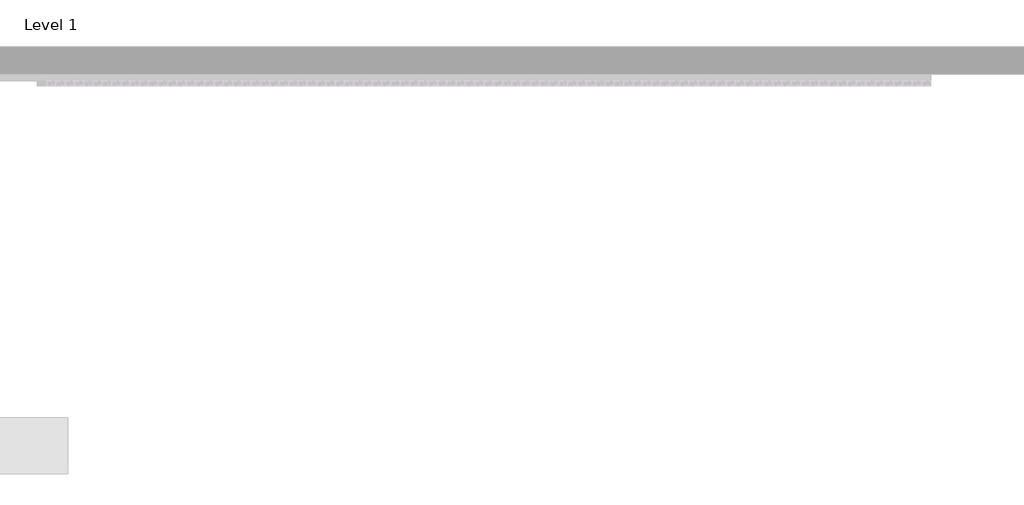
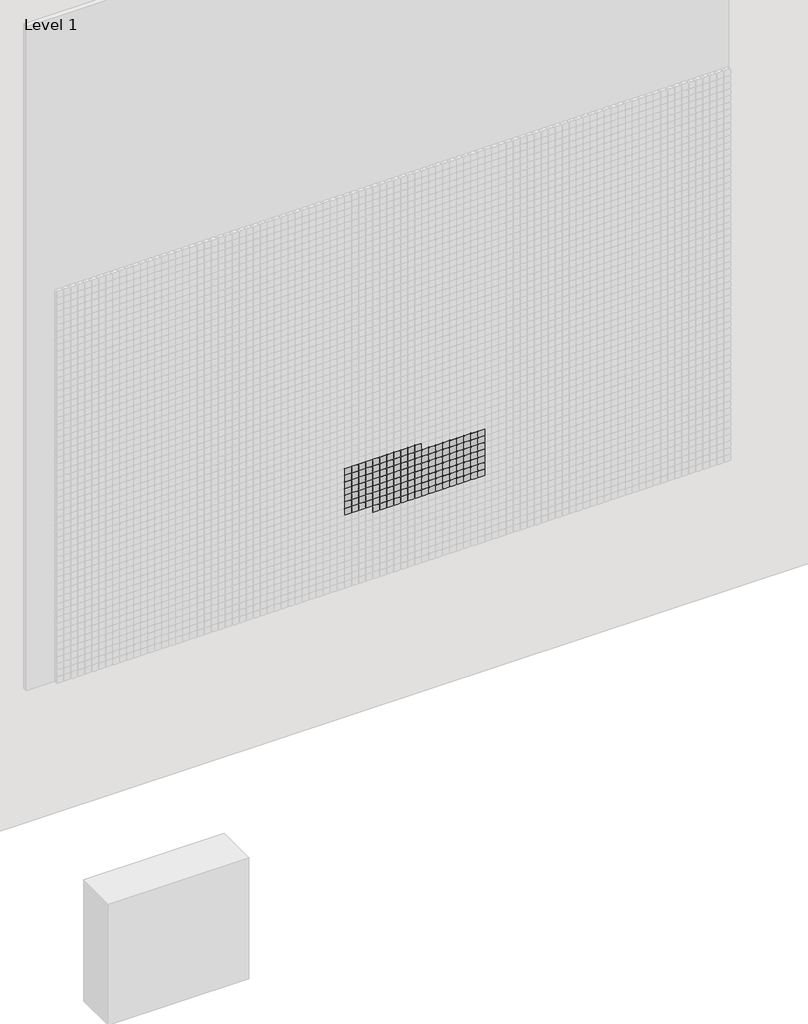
# One storey, part 46 of 71: 147 proxies.
"""IFC4 building model written with IfcOpenShell, lengths in millimetres."""

from ifc_helpers import new_model, si_unit, origin, place, context, project, spatial, transform, mapped, element, save
from components import generic_models_afde289c

model = new_model("IFC4")

# Units and contexts
model_context = context("Model", 3, world=origin())
ifc_project = project(units=[si_unit("LENGTHUNIT", "METRE", prefix="MILLI")], contexts=[model_context])

# Site, building, storey
site = spatial("IfcSite", under=ifc_project)
building = spatial("IfcBuilding", under=site)
storey = spatial("IfcBuildingStorey", under=building, Name="Level 1", Elevation=0.0)

# Proxies
placement = place(None, origin())
generic_models_shape = generic_models_afde289c(model_context)
element("IfcBuildingElementProxy", 1, Name="Pixel_M : Pixel_M", ObjectType="Pixel_M : Pixel_M", at=placement, inside=storey, context=model_context, shape_type="MappedRepresentation", body=[
    mapped(generic_models_shape, transform((7512.4280941, -75.0, 1866.3566215), x_axis=(1.0, 0.0, 0.0), y_axis=(0.0, 0.0, 1.0), z_axis=(0.0, -1.0, 0.0))),
])
element("IfcBuildingElementProxy", 2, Name="Pixel_M : Pixel_M", ObjectType="Pixel_M : Pixel_M", at=placement, inside=storey, context=model_context, shape_type="MappedRepresentation", body=[
    mapped(generic_models_shape, transform((7462.4280941, -75.0, 1866.3566215), x_axis=(1.0, 0.0, 0.0), y_axis=(0.0, 0.0, 1.0), z_axis=(0.0, -1.0, 0.0))),
])
element("IfcBuildingElementProxy", 3, Name="Pixel_M : Pixel_M", ObjectType="Pixel_M : Pixel_M", at=placement, inside=storey, context=model_context, shape_type="MappedRepresentation", body=[
    mapped(generic_models_shape, transform((7412.4280941, -75.0, 1866.3566215), x_axis=(1.0, 0.0, 0.0), y_axis=(0.0, 0.0, 1.0), z_axis=(0.0, -1.0, 0.0))),
])
element("IfcBuildingElementProxy", 4, Name="Pixel_M : Pixel_M", ObjectType="Pixel_M : Pixel_M", at=placement, inside=storey, context=model_context, shape_type="MappedRepresentation", body=[
    mapped(generic_models_shape, transform((7362.4280941, -75.0, 1866.3566215), x_axis=(1.0, 0.0, 0.0), y_axis=(0.0, 0.0, 1.0), z_axis=(0.0, -1.0, 0.0))),
])
element("IfcBuildingElementProxy", 5, Name="Pixel_M : Pixel_M", ObjectType="Pixel_M : Pixel_M", at=placement, inside=storey, context=model_context, shape_type="MappedRepresentation", body=[
    mapped(generic_models_shape, transform((7312.4280941, -75.0, 1866.3566215), x_axis=(1.0, 0.0, 0.0), y_axis=(0.0, 0.0, 1.0), z_axis=(0.0, -1.0, 0.0))),
])
element("IfcBuildingElementProxy", 6, Name="Pixel_M : Pixel_M", ObjectType="Pixel_M : Pixel_M", at=placement, inside=storey, context=model_context, shape_type="MappedRepresentation", body=[
    mapped(generic_models_shape, transform((7262.4280941, -75.0, 1866.3566215), x_axis=(1.0, 0.0, 0.0), y_axis=(0.0, 0.0, 1.0), z_axis=(0.0, -1.0, 0.0))),
])
element("IfcBuildingElementProxy", 7, Name="Pixel_M : Pixel_M", ObjectType="Pixel_M : Pixel_M", at=placement, inside=storey, context=model_context, shape_type="MappedRepresentation", body=[
    mapped(generic_models_shape, transform((7212.4280941, -75.0, 1866.3566215), x_axis=(1.0, 0.0, 0.0), y_axis=(0.0, 0.0, 1.0), z_axis=(0.0, -1.0, 0.0))),
])
element("IfcBuildingElementProxy", 8, Name="Pixel_M : Pixel_M", ObjectType="Pixel_M : Pixel_M", at=placement, inside=storey, context=model_context, shape_type="MappedRepresentation", body=[
    mapped(generic_models_shape, transform((7162.4280941, -75.0, 1866.3566215), x_axis=(1.0, 0.0, 0.0), y_axis=(0.0, 0.0, 1.0), z_axis=(0.0, -1.0, 0.0))),
])
element("IfcBuildingElementProxy", 9, Name="Pixel_M : Pixel_M", ObjectType="Pixel_M : Pixel_M", at=placement, inside=storey, context=model_context, shape_type="MappedRepresentation", body=[
    mapped(generic_models_shape, transform((7112.4280941, -75.0, 1866.3566215), x_axis=(1.0, 0.0, 0.0), y_axis=(0.0, 0.0, 1.0), z_axis=(0.0, -1.0, 0.0))),
])
element("IfcBuildingElementProxy", 10, Name="Pixel_M : Pixel_M", ObjectType="Pixel_M : Pixel_M", at=placement, inside=storey, context=model_context, shape_type="MappedRepresentation", body=[
    mapped(generic_models_shape, transform((7062.4280941, -75.0, 1866.3566215), x_axis=(1.0, 0.0, 0.0), y_axis=(0.0, 0.0, 1.0), z_axis=(0.0, -1.0, 0.0))),
])
element("IfcBuildingElementProxy", 11, Name="Pixel_M : Pixel_M", ObjectType="Pixel_M : Pixel_M", at=placement, inside=storey, context=model_context, shape_type="MappedRepresentation", body=[
    mapped(generic_models_shape, transform((7012.4280941, -75.0, 1866.3566215), x_axis=(1.0, 0.0, 0.0), y_axis=(0.0, 0.0, 1.0), z_axis=(0.0, -1.0, 0.0))),
])
element("IfcBuildingElementProxy", 12, Name="Pixel_M : Pixel_M", ObjectType="Pixel_M : Pixel_M", at=placement, inside=storey, context=model_context, shape_type="MappedRepresentation", body=[
    mapped(generic_models_shape, transform((7962.4280941, -75.0, 1816.3566215), x_axis=(1.0, 0.0, 0.0), y_axis=(0.0, 0.0, 1.0), z_axis=(0.0, -1.0, 0.0))),
])
element("IfcBuildingElementProxy", 13, Name="Pixel_M : Pixel_M", ObjectType="Pixel_M : Pixel_M", at=placement, inside=storey, context=model_context, shape_type="MappedRepresentation", body=[
    mapped(generic_models_shape, transform((7912.4280941, -75.0, 1816.3566215), x_axis=(1.0, 0.0, 0.0), y_axis=(0.0, 0.0, 1.0), z_axis=(0.0, -1.0, 0.0))),
])
element("IfcBuildingElementProxy", 14, Name="Pixel_M : Pixel_M", ObjectType="Pixel_M : Pixel_M", at=placement, inside=storey, context=model_context, shape_type="MappedRepresentation", body=[
    mapped(generic_models_shape, transform((7862.4280941, -75.0, 1816.3566215), x_axis=(1.0, 0.0, 0.0), y_axis=(0.0, 0.0, 1.0), z_axis=(0.0, -1.0, 0.0))),
])
element("IfcBuildingElementProxy", 15, Name="Pixel_M : Pixel_M", ObjectType="Pixel_M : Pixel_M", at=placement, inside=storey, context=model_context, shape_type="MappedRepresentation", body=[
    mapped(generic_models_shape, transform((7812.4280941, -75.0, 1816.3566215), x_axis=(1.0, 0.0, 0.0), y_axis=(0.0, 0.0, 1.0), z_axis=(0.0, -1.0, 0.0))),
])
element("IfcBuildingElementProxy", 16, Name="Pixel_M : Pixel_M", ObjectType="Pixel_M : Pixel_M", at=placement, inside=storey, context=model_context, shape_type="MappedRepresentation", body=[
    mapped(generic_models_shape, transform((7762.4280941, -75.0, 1816.3566215), x_axis=(1.0, 0.0, 0.0), y_axis=(0.0, 0.0, 1.0), z_axis=(0.0, -1.0, 0.0))),
])
element("IfcBuildingElementProxy", 17, Name="Pixel_M : Pixel_M", ObjectType="Pixel_M : Pixel_M", at=placement, inside=storey, context=model_context, shape_type="MappedRepresentation", body=[
    mapped(generic_models_shape, transform((7712.4280941, -75.0, 1816.3566215), x_axis=(1.0, 0.0, 0.0), y_axis=(0.0, 0.0, 1.0), z_axis=(0.0, -1.0, 0.0))),
])
element("IfcBuildingElementProxy", 18, Name="Pixel_M : Pixel_M", ObjectType="Pixel_M : Pixel_M", at=placement, inside=storey, context=model_context, shape_type="MappedRepresentation", body=[
    mapped(generic_models_shape, transform((7662.4280941, -75.0, 1816.3566215), x_axis=(1.0, 0.0, 0.0), y_axis=(0.0, 0.0, 1.0), z_axis=(0.0, -1.0, 0.0))),
])
element("IfcBuildingElementProxy", 19, Name="Pixel_M : Pixel_M", ObjectType="Pixel_M : Pixel_M", at=placement, inside=storey, context=model_context, shape_type="MappedRepresentation", body=[
    mapped(generic_models_shape, transform((7612.4280941, -75.0, 1816.3566215), x_axis=(1.0, 0.0, 0.0), y_axis=(0.0, 0.0, 1.0), z_axis=(0.0, -1.0, 0.0))),
])
element("IfcBuildingElementProxy", 20, Name="Pixel_M : Pixel_M", ObjectType="Pixel_M : Pixel_M", at=placement, inside=storey, context=model_context, shape_type="MappedRepresentation", body=[
    mapped(generic_models_shape, transform((7562.4280941, -75.0, 1816.3566215), x_axis=(1.0, 0.0, 0.0), y_axis=(0.0, 0.0, 1.0), z_axis=(0.0, -1.0, 0.0))),
])
element("IfcBuildingElementProxy", 21, Name="Pixel_M : Pixel_M", ObjectType="Pixel_M : Pixel_M", at=placement, inside=storey, context=model_context, shape_type="MappedRepresentation", body=[
    mapped(generic_models_shape, transform((7512.4280941, -75.0, 1816.3566215), x_axis=(1.0, 0.0, 0.0), y_axis=(0.0, 0.0, 1.0), z_axis=(0.0, -1.0, 0.0))),
])
element("IfcBuildingElementProxy", 22, Name="Pixel_M : Pixel_M", ObjectType="Pixel_M : Pixel_M", at=placement, inside=storey, context=model_context, shape_type="MappedRepresentation", body=[
    mapped(generic_models_shape, transform((7462.4280941, -75.0, 1816.3566215), x_axis=(1.0, 0.0, 0.0), y_axis=(0.0, 0.0, 1.0), z_axis=(0.0, -1.0, 0.0))),
])
element("IfcBuildingElementProxy", 23, Name="Pixel_M : Pixel_M", ObjectType="Pixel_M : Pixel_M", at=placement, inside=storey, context=model_context, shape_type="MappedRepresentation", body=[
    mapped(generic_models_shape, transform((7412.4280941, -75.0, 1816.3566215), x_axis=(1.0, 0.0, 0.0), y_axis=(0.0, 0.0, 1.0), z_axis=(0.0, -1.0, 0.0))),
])
element("IfcBuildingElementProxy", 24, Name="Pixel_M : Pixel_M", ObjectType="Pixel_M : Pixel_M", at=placement, inside=storey, context=model_context, shape_type="MappedRepresentation", body=[
    mapped(generic_models_shape, transform((7362.4280941, -75.0, 1816.3566215), x_axis=(1.0, 0.0, 0.0), y_axis=(0.0, 0.0, 1.0), z_axis=(0.0, -1.0, 0.0))),
])
element("IfcBuildingElementProxy", 25, Name="Pixel_M : Pixel_M", ObjectType="Pixel_M : Pixel_M", at=placement, inside=storey, context=model_context, shape_type="MappedRepresentation", body=[
    mapped(generic_models_shape, transform((7312.4280941, -75.0, 1816.3566215), x_axis=(1.0, 0.0, 0.0), y_axis=(0.0, 0.0, 1.0), z_axis=(0.0, -1.0, 0.0))),
])
element("IfcBuildingElementProxy", 26, Name="Pixel_M : Pixel_M", ObjectType="Pixel_M : Pixel_M", at=placement, inside=storey, context=model_context, shape_type="MappedRepresentation", body=[
    mapped(generic_models_shape, transform((7262.4280941, -75.0, 1816.3566215), x_axis=(1.0, 0.0, 0.0), y_axis=(0.0, 0.0, 1.0), z_axis=(0.0, -1.0, 0.0))),
])
element("IfcBuildingElementProxy", 27, Name="Pixel_M : Pixel_M", ObjectType="Pixel_M : Pixel_M", at=placement, inside=storey, context=model_context, shape_type="MappedRepresentation", body=[
    mapped(generic_models_shape, transform((7212.4280941, -75.0, 1816.3566215), x_axis=(1.0, 0.0, 0.0), y_axis=(0.0, 0.0, 1.0), z_axis=(0.0, -1.0, 0.0))),
])
element("IfcBuildingElementProxy", 28, Name="Pixel_M : Pixel_M", ObjectType="Pixel_M : Pixel_M", at=placement, inside=storey, context=model_context, shape_type="MappedRepresentation", body=[
    mapped(generic_models_shape, transform((7162.4280941, -75.0, 1816.3566215), x_axis=(1.0, 0.0, 0.0), y_axis=(0.0, 0.0, 1.0), z_axis=(0.0, -1.0, 0.0))),
])
element("IfcBuildingElementProxy", 29, Name="Pixel_M : Pixel_M", ObjectType="Pixel_M : Pixel_M", at=placement, inside=storey, context=model_context, shape_type="MappedRepresentation", body=[
    mapped(generic_models_shape, transform((7112.4280941, -75.0, 1816.3566215), x_axis=(1.0, 0.0, 0.0), y_axis=(0.0, 0.0, 1.0), z_axis=(0.0, -1.0, 0.0))),
])
element("IfcBuildingElementProxy", 30, Name="Pixel_M : Pixel_M", ObjectType="Pixel_M : Pixel_M", at=placement, inside=storey, context=model_context, shape_type="MappedRepresentation", body=[
    mapped(generic_models_shape, transform((7062.4280941, -75.0, 1816.3566215), x_axis=(1.0, 0.0, 0.0), y_axis=(0.0, 0.0, 1.0), z_axis=(0.0, -1.0, 0.0))),
])
element("IfcBuildingElementProxy", 31, Name="Pixel_M : Pixel_M", ObjectType="Pixel_M : Pixel_M", at=placement, inside=storey, context=model_context, shape_type="MappedRepresentation", body=[
    mapped(generic_models_shape, transform((7012.4280941, -75.0, 1816.3566215), x_axis=(1.0, 0.0, 0.0), y_axis=(0.0, 0.0, 1.0), z_axis=(0.0, -1.0, 0.0))),
])
element("IfcBuildingElementProxy", 32, Name="Pixel_M : Pixel_M", ObjectType="Pixel_M : Pixel_M", at=placement, inside=storey, context=model_context, shape_type="MappedRepresentation", body=[
    mapped(generic_models_shape, transform((7962.4280941, -75.0, 1766.3566215), x_axis=(1.0, 0.0, 0.0), y_axis=(0.0, 0.0, 1.0), z_axis=(0.0, -1.0, 0.0))),
])
element("IfcBuildingElementProxy", 33, Name="Pixel_M : Pixel_M", ObjectType="Pixel_M : Pixel_M", at=placement, inside=storey, context=model_context, shape_type="MappedRepresentation", body=[
    mapped(generic_models_shape, transform((7912.4280941, -75.0, 1766.3566215), x_axis=(1.0, 0.0, 0.0), y_axis=(0.0, 0.0, 1.0), z_axis=(0.0, -1.0, 0.0))),
])
element("IfcBuildingElementProxy", 34, Name="Pixel_M : Pixel_M", ObjectType="Pixel_M : Pixel_M", at=placement, inside=storey, context=model_context, shape_type="MappedRepresentation", body=[
    mapped(generic_models_shape, transform((7862.4280941, -75.0, 1766.3566215), x_axis=(1.0, 0.0, 0.0), y_axis=(0.0, 0.0, 1.0), z_axis=(0.0, -1.0, 0.0))),
])
element("IfcBuildingElementProxy", 35, Name="Pixel_M : Pixel_M", ObjectType="Pixel_M : Pixel_M", at=placement, inside=storey, context=model_context, shape_type="MappedRepresentation", body=[
    mapped(generic_models_shape, transform((7812.4280941, -75.0, 1766.3566215), x_axis=(1.0, 0.0, 0.0), y_axis=(0.0, 0.0, 1.0), z_axis=(0.0, -1.0, 0.0))),
])
element("IfcBuildingElementProxy", 36, Name="Pixel_M : Pixel_M", ObjectType="Pixel_M : Pixel_M", at=placement, inside=storey, context=model_context, shape_type="MappedRepresentation", body=[
    mapped(generic_models_shape, transform((7762.4280941, -75.0, 1766.3566215), x_axis=(1.0, 0.0, 0.0), y_axis=(0.0, 0.0, 1.0), z_axis=(0.0, -1.0, 0.0))),
])
element("IfcBuildingElementProxy", 37, Name="Pixel_M : Pixel_M", ObjectType="Pixel_M : Pixel_M", at=placement, inside=storey, context=model_context, shape_type="MappedRepresentation", body=[
    mapped(generic_models_shape, transform((7712.4280941, -75.0, 1766.3566215), x_axis=(1.0, 0.0, 0.0), y_axis=(0.0, 0.0, 1.0), z_axis=(0.0, -1.0, 0.0))),
])
element("IfcBuildingElementProxy", 38, Name="Pixel_M : Pixel_M", ObjectType="Pixel_M : Pixel_M", at=placement, inside=storey, context=model_context, shape_type="MappedRepresentation", body=[
    mapped(generic_models_shape, transform((7662.4280941, -75.0, 1766.3566215), x_axis=(1.0, 0.0, 0.0), y_axis=(0.0, 0.0, 1.0), z_axis=(0.0, -1.0, 0.0))),
])
element("IfcBuildingElementProxy", 39, Name="Pixel_M : Pixel_M", ObjectType="Pixel_M : Pixel_M", at=placement, inside=storey, context=model_context, shape_type="MappedRepresentation", body=[
    mapped(generic_models_shape, transform((7612.4280941, -75.0, 1766.3566215), x_axis=(1.0, 0.0, 0.0), y_axis=(0.0, 0.0, 1.0), z_axis=(0.0, -1.0, 0.0))),
])
element("IfcBuildingElementProxy", 40, Name="Pixel_M : Pixel_M", ObjectType="Pixel_M : Pixel_M", at=placement, inside=storey, context=model_context, shape_type="MappedRepresentation", body=[
    mapped(generic_models_shape, transform((7562.4280941, -75.0, 1766.3566215), x_axis=(1.0, 0.0, 0.0), y_axis=(0.0, 0.0, 1.0), z_axis=(0.0, -1.0, 0.0))),
])
element("IfcBuildingElementProxy", 41, Name="Pixel_M : Pixel_M", ObjectType="Pixel_M : Pixel_M", at=placement, inside=storey, context=model_context, shape_type="MappedRepresentation", body=[
    mapped(generic_models_shape, transform((7512.4280941, -75.0, 1766.3566215), x_axis=(1.0, 0.0, 0.0), y_axis=(0.0, 0.0, 1.0), z_axis=(0.0, -1.0, 0.0))),
])
element("IfcBuildingElementProxy", 42, Name="Pixel_M : Pixel_M", ObjectType="Pixel_M : Pixel_M", at=placement, inside=storey, context=model_context, shape_type="MappedRepresentation", body=[
    mapped(generic_models_shape, transform((7462.4280941, -75.0, 1766.3566215), x_axis=(1.0, 0.0, 0.0), y_axis=(0.0, 0.0, 1.0), z_axis=(0.0, -1.0, 0.0))),
])
element("IfcBuildingElementProxy", 43, Name="Pixel_M : Pixel_M", ObjectType="Pixel_M : Pixel_M", at=placement, inside=storey, context=model_context, shape_type="MappedRepresentation", body=[
    mapped(generic_models_shape, transform((7412.4280941, -75.0, 1766.3566215), x_axis=(1.0, 0.0, 0.0), y_axis=(0.0, 0.0, 1.0), z_axis=(0.0, -1.0, 0.0))),
])
element("IfcBuildingElementProxy", 44, Name="Pixel_M : Pixel_M", ObjectType="Pixel_M : Pixel_M", at=placement, inside=storey, context=model_context, shape_type="MappedRepresentation", body=[
    mapped(generic_models_shape, transform((7362.4280941, -75.0, 1766.3566215), x_axis=(1.0, 0.0, 0.0), y_axis=(0.0, 0.0, 1.0), z_axis=(0.0, -1.0, 0.0))),
])
element("IfcBuildingElementProxy", 45, Name="Pixel_M : Pixel_M", ObjectType="Pixel_M : Pixel_M", at=placement, inside=storey, context=model_context, shape_type="MappedRepresentation", body=[
    mapped(generic_models_shape, transform((7312.4280941, -75.0, 1766.3566215), x_axis=(1.0, 0.0, 0.0), y_axis=(0.0, 0.0, 1.0), z_axis=(0.0, -1.0, 0.0))),
])
element("IfcBuildingElementProxy", 46, Name="Pixel_M : Pixel_M", ObjectType="Pixel_M : Pixel_M", at=placement, inside=storey, context=model_context, shape_type="MappedRepresentation", body=[
    mapped(generic_models_shape, transform((7262.4280941, -75.0, 1766.3566215), x_axis=(1.0, 0.0, 0.0), y_axis=(0.0, 0.0, 1.0), z_axis=(0.0, -1.0, 0.0))),
])
element("IfcBuildingElementProxy", 47, Name="Pixel_M : Pixel_M", ObjectType="Pixel_M : Pixel_M", at=placement, inside=storey, context=model_context, shape_type="MappedRepresentation", body=[
    mapped(generic_models_shape, transform((7212.4280941, -75.0, 1766.3566215), x_axis=(1.0, 0.0, 0.0), y_axis=(0.0, 0.0, 1.0), z_axis=(0.0, -1.0, 0.0))),
])
element("IfcBuildingElementProxy", 48, Name="Pixel_M : Pixel_M", ObjectType="Pixel_M : Pixel_M", at=placement, inside=storey, context=model_context, shape_type="MappedRepresentation", body=[
    mapped(generic_models_shape, transform((7162.4280941, -75.0, 1766.3566215), x_axis=(1.0, 0.0, 0.0), y_axis=(0.0, 0.0, 1.0), z_axis=(0.0, -1.0, 0.0))),
])
element("IfcBuildingElementProxy", 49, Name="Pixel_M : Pixel_M", ObjectType="Pixel_M : Pixel_M", at=placement, inside=storey, context=model_context, shape_type="MappedRepresentation", body=[
    mapped(generic_models_shape, transform((7112.4280941, -75.0, 1766.3566215), x_axis=(1.0, 0.0, 0.0), y_axis=(0.0, 0.0, 1.0), z_axis=(0.0, -1.0, 0.0))),
])
element("IfcBuildingElementProxy", 50, Name="Pixel_M : Pixel_M", ObjectType="Pixel_M : Pixel_M", at=placement, inside=storey, context=model_context, shape_type="MappedRepresentation", body=[
    mapped(generic_models_shape, transform((7062.4280941, -75.0, 1766.3566215), x_axis=(1.0, 0.0, 0.0), y_axis=(0.0, 0.0, 1.0), z_axis=(0.0, -1.0, 0.0))),
])
element("IfcBuildingElementProxy", 51, Name="Pixel_M : Pixel_M", ObjectType="Pixel_M : Pixel_M", at=placement, inside=storey, context=model_context, shape_type="MappedRepresentation", body=[
    mapped(generic_models_shape, transform((7012.4280941, -75.0, 1766.3566215), x_axis=(1.0, 0.0, 0.0), y_axis=(0.0, 0.0, 1.0), z_axis=(0.0, -1.0, 0.0))),
])
element("IfcBuildingElementProxy", 52, Name="Pixel_M : Pixel_M", ObjectType="Pixel_M : Pixel_M", at=placement, inside=storey, context=model_context, shape_type="MappedRepresentation", body=[
    mapped(generic_models_shape, transform((7962.4280941, -75.0, 1716.3566215), x_axis=(1.0, 0.0, 0.0), y_axis=(0.0, 0.0, 1.0), z_axis=(0.0, -1.0, 0.0))),
])
element("IfcBuildingElementProxy", 53, Name="Pixel_M : Pixel_M", ObjectType="Pixel_M : Pixel_M", at=placement, inside=storey, context=model_context, shape_type="MappedRepresentation", body=[
    mapped(generic_models_shape, transform((7912.4280941, -75.0, 1716.3566215), x_axis=(1.0, 0.0, 0.0), y_axis=(0.0, 0.0, 1.0), z_axis=(0.0, -1.0, 0.0))),
])
element("IfcBuildingElementProxy", 54, Name="Pixel_M : Pixel_M", ObjectType="Pixel_M : Pixel_M", at=placement, inside=storey, context=model_context, shape_type="MappedRepresentation", body=[
    mapped(generic_models_shape, transform((7862.4280941, -75.0, 1716.3566215), x_axis=(1.0, 0.0, 0.0), y_axis=(0.0, 0.0, 1.0), z_axis=(0.0, -1.0, 0.0))),
])
element("IfcBuildingElementProxy", 55, Name="Pixel_M : Pixel_M", ObjectType="Pixel_M : Pixel_M", at=placement, inside=storey, context=model_context, shape_type="MappedRepresentation", body=[
    mapped(generic_models_shape, transform((7812.4280941, -75.0, 1716.3566215), x_axis=(1.0, 0.0, 0.0), y_axis=(0.0, 0.0, 1.0), z_axis=(0.0, -1.0, 0.0))),
])
element("IfcBuildingElementProxy", 56, Name="Pixel_M : Pixel_M", ObjectType="Pixel_M : Pixel_M", at=placement, inside=storey, context=model_context, shape_type="MappedRepresentation", body=[
    mapped(generic_models_shape, transform((7762.4280941, -75.0, 1716.3566215), x_axis=(1.0, 0.0, 0.0), y_axis=(0.0, 0.0, 1.0), z_axis=(0.0, -1.0, 0.0))),
])
element("IfcBuildingElementProxy", 57, Name="Pixel_M : Pixel_M", ObjectType="Pixel_M : Pixel_M", at=placement, inside=storey, context=model_context, shape_type="MappedRepresentation", body=[
    mapped(generic_models_shape, transform((7712.4280941, -75.0, 1716.3566215), x_axis=(1.0, 0.0, 0.0), y_axis=(0.0, 0.0, 1.0), z_axis=(0.0, -1.0, 0.0))),
])
element("IfcBuildingElementProxy", 58, Name="Pixel_M : Pixel_M", ObjectType="Pixel_M : Pixel_M", at=placement, inside=storey, context=model_context, shape_type="MappedRepresentation", body=[
    mapped(generic_models_shape, transform((7662.4280941, -75.0, 1716.3566215), x_axis=(1.0, 0.0, 0.0), y_axis=(0.0, 0.0, 1.0), z_axis=(0.0, -1.0, 0.0))),
])
element("IfcBuildingElementProxy", 59, Name="Pixel_M : Pixel_M", ObjectType="Pixel_M : Pixel_M", at=placement, inside=storey, context=model_context, shape_type="MappedRepresentation", body=[
    mapped(generic_models_shape, transform((7612.4280941, -75.0, 1716.3566215), x_axis=(1.0, 0.0, 0.0), y_axis=(0.0, 0.0, 1.0), z_axis=(0.0, -1.0, 0.0))),
])
element("IfcBuildingElementProxy", 60, Name="Pixel_M : Pixel_M", ObjectType="Pixel_M : Pixel_M", at=placement, inside=storey, context=model_context, shape_type="MappedRepresentation", body=[
    mapped(generic_models_shape, transform((7562.4280941, -75.0, 1716.3566215), x_axis=(1.0, 0.0, 0.0), y_axis=(0.0, 0.0, 1.0), z_axis=(0.0, -1.0, 0.0))),
])
element("IfcBuildingElementProxy", 61, Name="Pixel_M : Pixel_M", ObjectType="Pixel_M : Pixel_M", at=placement, inside=storey, context=model_context, shape_type="MappedRepresentation", body=[
    mapped(generic_models_shape, transform((7512.4280941, -75.0, 1716.3566215), x_axis=(1.0, 0.0, 0.0), y_axis=(0.0, 0.0, 1.0), z_axis=(0.0, -1.0, 0.0))),
])
element("IfcBuildingElementProxy", 62, Name="Pixel_M : Pixel_M", ObjectType="Pixel_M : Pixel_M", at=placement, inside=storey, context=model_context, shape_type="MappedRepresentation", body=[
    mapped(generic_models_shape, transform((7462.4280941, -75.0, 1716.3566215), x_axis=(1.0, 0.0, 0.0), y_axis=(0.0, 0.0, 1.0), z_axis=(0.0, -1.0, 0.0))),
])
element("IfcBuildingElementProxy", 63, Name="Pixel_M : Pixel_M", ObjectType="Pixel_M : Pixel_M", at=placement, inside=storey, context=model_context, shape_type="MappedRepresentation", body=[
    mapped(generic_models_shape, transform((7412.4280941, -75.0, 1716.3566215), x_axis=(1.0, 0.0, 0.0), y_axis=(0.0, 0.0, 1.0), z_axis=(0.0, -1.0, 0.0))),
])
element("IfcBuildingElementProxy", 64, Name="Pixel_M : Pixel_M", ObjectType="Pixel_M : Pixel_M", at=placement, inside=storey, context=model_context, shape_type="MappedRepresentation", body=[
    mapped(generic_models_shape, transform((7362.4280941, -75.0, 1716.3566215), x_axis=(1.0, 0.0, 0.0), y_axis=(0.0, 0.0, 1.0), z_axis=(0.0, -1.0, 0.0))),
])
element("IfcBuildingElementProxy", 65, Name="Pixel_M : Pixel_M", ObjectType="Pixel_M : Pixel_M", at=placement, inside=storey, context=model_context, shape_type="MappedRepresentation", body=[
    mapped(generic_models_shape, transform((7312.4280941, -75.0, 1716.3566215), x_axis=(1.0, 0.0, 0.0), y_axis=(0.0, 0.0, 1.0), z_axis=(0.0, -1.0, 0.0))),
])
element("IfcBuildingElementProxy", 66, Name="Pixel_M : Pixel_M", ObjectType="Pixel_M : Pixel_M", at=placement, inside=storey, context=model_context, shape_type="MappedRepresentation", body=[
    mapped(generic_models_shape, transform((7262.4280941, -75.0, 1716.3566215), x_axis=(1.0, 0.0, 0.0), y_axis=(0.0, 0.0, 1.0), z_axis=(0.0, -1.0, 0.0))),
])
element("IfcBuildingElementProxy", 67, Name="Pixel_M : Pixel_M", ObjectType="Pixel_M : Pixel_M", at=placement, inside=storey, context=model_context, shape_type="MappedRepresentation", body=[
    mapped(generic_models_shape, transform((7212.4280941, -75.0, 1716.3566215), x_axis=(1.0, 0.0, 0.0), y_axis=(0.0, 0.0, 1.0), z_axis=(0.0, -1.0, 0.0))),
])
element("IfcBuildingElementProxy", 68, Name="Pixel_M : Pixel_M", ObjectType="Pixel_M : Pixel_M", at=placement, inside=storey, context=model_context, shape_type="MappedRepresentation", body=[
    mapped(generic_models_shape, transform((7162.4280941, -75.0, 1716.3566215), x_axis=(1.0, 0.0, 0.0), y_axis=(0.0, 0.0, 1.0), z_axis=(0.0, -1.0, 0.0))),
])
element("IfcBuildingElementProxy", 69, Name="Pixel_M : Pixel_M", ObjectType="Pixel_M : Pixel_M", at=placement, inside=storey, context=model_context, shape_type="MappedRepresentation", body=[
    mapped(generic_models_shape, transform((7112.4280941, -75.0, 1716.3566215), x_axis=(1.0, 0.0, 0.0), y_axis=(0.0, 0.0, 1.0), z_axis=(0.0, -1.0, 0.0))),
])
element("IfcBuildingElementProxy", 70, Name="Pixel_M : Pixel_M", ObjectType="Pixel_M : Pixel_M", at=placement, inside=storey, context=model_context, shape_type="MappedRepresentation", body=[
    mapped(generic_models_shape, transform((7062.4280941, -75.0, 1716.3566215), x_axis=(1.0, 0.0, 0.0), y_axis=(0.0, 0.0, 1.0), z_axis=(0.0, -1.0, 0.0))),
])
element("IfcBuildingElementProxy", 71, Name="Pixel_M : Pixel_M", ObjectType="Pixel_M : Pixel_M", at=placement, inside=storey, context=model_context, shape_type="MappedRepresentation", body=[
    mapped(generic_models_shape, transform((7012.4280941, -75.0, 1716.3566215), x_axis=(1.0, 0.0, 0.0), y_axis=(0.0, 0.0, 1.0), z_axis=(0.0, -1.0, 0.0))),
])
element("IfcBuildingElementProxy", 72, Name="Pixel_M : Pixel_M", ObjectType="Pixel_M : Pixel_M", at=placement, inside=storey, context=model_context, shape_type="MappedRepresentation", body=[
    mapped(generic_models_shape, transform((7962.4280941, -75.0, 1666.3566215), x_axis=(1.0, 0.0, 0.0), y_axis=(0.0, 0.0, 1.0), z_axis=(0.0, -1.0, 0.0))),
])
element("IfcBuildingElementProxy", 73, Name="Pixel_M : Pixel_M", ObjectType="Pixel_M : Pixel_M", at=placement, inside=storey, context=model_context, shape_type="MappedRepresentation", body=[
    mapped(generic_models_shape, transform((7912.4280941, -75.0, 1666.3566215), x_axis=(1.0, 0.0, 0.0), y_axis=(0.0, 0.0, 1.0), z_axis=(0.0, -1.0, 0.0))),
])
element("IfcBuildingElementProxy", 74, Name="Pixel_M : Pixel_M", ObjectType="Pixel_M : Pixel_M", at=placement, inside=storey, context=model_context, shape_type="MappedRepresentation", body=[
    mapped(generic_models_shape, transform((7862.4280941, -75.0, 1666.3566215), x_axis=(1.0, 0.0, 0.0), y_axis=(0.0, 0.0, 1.0), z_axis=(0.0, -1.0, 0.0))),
])
element("IfcBuildingElementProxy", 75, Name="Pixel_M : Pixel_M", ObjectType="Pixel_M : Pixel_M", at=placement, inside=storey, context=model_context, shape_type="MappedRepresentation", body=[
    mapped(generic_models_shape, transform((7812.4280941, -75.0, 1666.3566215), x_axis=(1.0, 0.0, 0.0), y_axis=(0.0, 0.0, 1.0), z_axis=(0.0, -1.0, 0.0))),
])
element("IfcBuildingElementProxy", 76, Name="Pixel_M : Pixel_M", ObjectType="Pixel_M : Pixel_M", at=placement, inside=storey, context=model_context, shape_type="MappedRepresentation", body=[
    mapped(generic_models_shape, transform((7762.4280941, -75.0, 1666.3566215), x_axis=(1.0, 0.0, 0.0), y_axis=(0.0, 0.0, 1.0), z_axis=(0.0, -1.0, 0.0))),
])
element("IfcBuildingElementProxy", 77, Name="Pixel_M : Pixel_M", ObjectType="Pixel_M : Pixel_M", at=placement, inside=storey, context=model_context, shape_type="MappedRepresentation", body=[
    mapped(generic_models_shape, transform((7712.4280941, -75.0, 1666.3566215), x_axis=(1.0, 0.0, 0.0), y_axis=(0.0, 0.0, 1.0), z_axis=(0.0, -1.0, 0.0))),
])
element("IfcBuildingElementProxy", 78, Name="Pixel_M : Pixel_M", ObjectType="Pixel_M : Pixel_M", at=placement, inside=storey, context=model_context, shape_type="MappedRepresentation", body=[
    mapped(generic_models_shape, transform((7662.4280941, -75.0, 1666.3566215), x_axis=(1.0, 0.0, 0.0), y_axis=(0.0, 0.0, 1.0), z_axis=(0.0, -1.0, 0.0))),
])
element("IfcBuildingElementProxy", 79, Name="Pixel_M : Pixel_M", ObjectType="Pixel_M : Pixel_M", at=placement, inside=storey, context=model_context, shape_type="MappedRepresentation", body=[
    mapped(generic_models_shape, transform((7612.4280941, -75.0, 1666.3566215), x_axis=(1.0, 0.0, 0.0), y_axis=(0.0, 0.0, 1.0), z_axis=(0.0, -1.0, 0.0))),
])
element("IfcBuildingElementProxy", 80, Name="Pixel_M : Pixel_M", ObjectType="Pixel_M : Pixel_M", at=placement, inside=storey, context=model_context, shape_type="MappedRepresentation", body=[
    mapped(generic_models_shape, transform((7562.4280941, -75.0, 1666.3566215), x_axis=(1.0, 0.0, 0.0), y_axis=(0.0, 0.0, 1.0), z_axis=(0.0, -1.0, 0.0))),
])
element("IfcBuildingElementProxy", 81, Name="Pixel_M : Pixel_M", ObjectType="Pixel_M : Pixel_M", at=placement, inside=storey, context=model_context, shape_type="MappedRepresentation", body=[
    mapped(generic_models_shape, transform((7512.4280941, -75.0, 1666.3566215), x_axis=(1.0, 0.0, 0.0), y_axis=(0.0, 0.0, 1.0), z_axis=(0.0, -1.0, 0.0))),
])
element("IfcBuildingElementProxy", 82, Name="Pixel_M : Pixel_M", ObjectType="Pixel_M : Pixel_M", at=placement, inside=storey, context=model_context, shape_type="MappedRepresentation", body=[
    mapped(generic_models_shape, transform((7462.4280941, -75.0, 1666.3566215), x_axis=(1.0, 0.0, 0.0), y_axis=(0.0, 0.0, 1.0), z_axis=(0.0, -1.0, 0.0))),
])
element("IfcBuildingElementProxy", 83, Name="Pixel_M : Pixel_M", ObjectType="Pixel_M : Pixel_M", at=placement, inside=storey, context=model_context, shape_type="MappedRepresentation", body=[
    mapped(generic_models_shape, transform((7412.4280941, -75.0, 1666.3566215), x_axis=(1.0, 0.0, 0.0), y_axis=(0.0, 0.0, 1.0), z_axis=(0.0, -1.0, 0.0))),
])
element("IfcBuildingElementProxy", 84, Name="Pixel_M : Pixel_M", ObjectType="Pixel_M : Pixel_M", at=placement, inside=storey, context=model_context, shape_type="MappedRepresentation", body=[
    mapped(generic_models_shape, transform((7362.4280941, -75.0, 1666.3566215), x_axis=(1.0, 0.0, 0.0), y_axis=(0.0, 0.0, 1.0), z_axis=(0.0, -1.0, 0.0))),
])
element("IfcBuildingElementProxy", 85, Name="Pixel_M : Pixel_M", ObjectType="Pixel_M : Pixel_M", at=placement, inside=storey, context=model_context, shape_type="MappedRepresentation", body=[
    mapped(generic_models_shape, transform((7312.4280941, -75.0, 1666.3566215), x_axis=(1.0, 0.0, 0.0), y_axis=(0.0, 0.0, 1.0), z_axis=(0.0, -1.0, 0.0))),
])
element("IfcBuildingElementProxy", 86, Name="Pixel_M : Pixel_M", ObjectType="Pixel_M : Pixel_M", at=placement, inside=storey, context=model_context, shape_type="MappedRepresentation", body=[
    mapped(generic_models_shape, transform((7262.4280941, -75.0, 1666.3566215), x_axis=(1.0, 0.0, 0.0), y_axis=(0.0, 0.0, 1.0), z_axis=(0.0, -1.0, 0.0))),
])
element("IfcBuildingElementProxy", 87, Name="Pixel_M : Pixel_M", ObjectType="Pixel_M : Pixel_M", at=placement, inside=storey, context=model_context, shape_type="MappedRepresentation", body=[
    mapped(generic_models_shape, transform((7212.4280941, -75.0, 1666.3566215), x_axis=(1.0, 0.0, 0.0), y_axis=(0.0, 0.0, 1.0), z_axis=(0.0, -1.0, 0.0))),
])
element("IfcBuildingElementProxy", 88, Name="Pixel_M : Pixel_M", ObjectType="Pixel_M : Pixel_M", at=placement, inside=storey, context=model_context, shape_type="MappedRepresentation", body=[
    mapped(generic_models_shape, transform((7162.4280941, -75.0, 1666.3566215), x_axis=(1.0, 0.0, 0.0), y_axis=(0.0, 0.0, 1.0), z_axis=(0.0, -1.0, 0.0))),
])
element("IfcBuildingElementProxy", 89, Name="Pixel_M : Pixel_M", ObjectType="Pixel_M : Pixel_M", at=placement, inside=storey, context=model_context, shape_type="MappedRepresentation", body=[
    mapped(generic_models_shape, transform((7112.4280941, -75.0, 1666.3566215), x_axis=(1.0, 0.0, 0.0), y_axis=(0.0, 0.0, 1.0), z_axis=(0.0, -1.0, 0.0))),
])
element("IfcBuildingElementProxy", 90, Name="Pixel_M : Pixel_M", ObjectType="Pixel_M : Pixel_M", at=placement, inside=storey, context=model_context, shape_type="MappedRepresentation", body=[
    mapped(generic_models_shape, transform((7062.4280941, -75.0, 1666.3566215), x_axis=(1.0, 0.0, 0.0), y_axis=(0.0, 0.0, 1.0), z_axis=(0.0, -1.0, 0.0))),
])
element("IfcBuildingElementProxy", 91, Name="Pixel_M : Pixel_M", ObjectType="Pixel_M : Pixel_M", at=placement, inside=storey, context=model_context, shape_type="MappedRepresentation", body=[
    mapped(generic_models_shape, transform((7012.4280941, -75.0, 1666.3566215), x_axis=(1.0, 0.0, 0.0), y_axis=(0.0, 0.0, 1.0), z_axis=(0.0, -1.0, 0.0))),
])
element("IfcBuildingElementProxy", 92, Name="Pixel_M : Pixel_M", ObjectType="Pixel_M : Pixel_M", at=placement, inside=storey, context=model_context, shape_type="MappedRepresentation", body=[
    mapped(generic_models_shape, transform((7962.4280941, -75.0, 1616.3566215), x_axis=(1.0, 0.0, 0.0), y_axis=(0.0, 0.0, 1.0), z_axis=(0.0, -1.0, 0.0))),
])
element("IfcBuildingElementProxy", 93, Name="Pixel_M : Pixel_M", ObjectType="Pixel_M : Pixel_M", at=placement, inside=storey, context=model_context, shape_type="MappedRepresentation", body=[
    mapped(generic_models_shape, transform((7912.4280941, -75.0, 1616.3566215), x_axis=(1.0, 0.0, 0.0), y_axis=(0.0, 0.0, 1.0), z_axis=(0.0, -1.0, 0.0))),
])
element("IfcBuildingElementProxy", 94, Name="Pixel_M : Pixel_M", ObjectType="Pixel_M : Pixel_M", at=placement, inside=storey, context=model_context, shape_type="MappedRepresentation", body=[
    mapped(generic_models_shape, transform((7862.4280941, -75.0, 1616.3566215), x_axis=(1.0, 0.0, 0.0), y_axis=(0.0, 0.0, 1.0), z_axis=(0.0, -1.0, 0.0))),
])
element("IfcBuildingElementProxy", 95, Name="Pixel_M : Pixel_M", ObjectType="Pixel_M : Pixel_M", at=placement, inside=storey, context=model_context, shape_type="MappedRepresentation", body=[
    mapped(generic_models_shape, transform((7812.4280941, -75.0, 1616.3566215), x_axis=(1.0, 0.0, 0.0), y_axis=(0.0, 0.0, 1.0), z_axis=(0.0, -1.0, 0.0))),
])
element("IfcBuildingElementProxy", 96, Name="Pixel_M : Pixel_M", ObjectType="Pixel_M : Pixel_M", at=placement, inside=storey, context=model_context, shape_type="MappedRepresentation", body=[
    mapped(generic_models_shape, transform((7762.4280941, -75.0, 1616.3566215), x_axis=(1.0, 0.0, 0.0), y_axis=(0.0, 0.0, 1.0), z_axis=(0.0, -1.0, 0.0))),
])
element("IfcBuildingElementProxy", 97, Name="Pixel_M : Pixel_M", ObjectType="Pixel_M : Pixel_M", at=placement, inside=storey, context=model_context, shape_type="MappedRepresentation", body=[
    mapped(generic_models_shape, transform((7712.4280941, -75.0, 1616.3566215), x_axis=(1.0, 0.0, 0.0), y_axis=(0.0, 0.0, 1.0), z_axis=(0.0, -1.0, 0.0))),
])
element("IfcBuildingElementProxy", 98, Name="Pixel_M : Pixel_M", ObjectType="Pixel_M : Pixel_M", at=placement, inside=storey, context=model_context, shape_type="MappedRepresentation", body=[
    mapped(generic_models_shape, transform((7662.4280941, -75.0, 1616.3566215), x_axis=(1.0, 0.0, 0.0), y_axis=(0.0, 0.0, 1.0), z_axis=(0.0, -1.0, 0.0))),
])
element("IfcBuildingElementProxy", 99, Name="Pixel_M : Pixel_M", ObjectType="Pixel_M : Pixel_M", at=placement, inside=storey, context=model_context, shape_type="MappedRepresentation", body=[
    mapped(generic_models_shape, transform((7612.4280941, -75.0, 1616.3566215), x_axis=(1.0, 0.0, 0.0), y_axis=(0.0, 0.0, 1.0), z_axis=(0.0, -1.0, 0.0))),
])
element("IfcBuildingElementProxy", 100, Name="Pixel_M : Pixel_M", ObjectType="Pixel_M : Pixel_M", at=placement, inside=storey, context=model_context, shape_type="MappedRepresentation", body=[
    mapped(generic_models_shape, transform((7562.4280941, -75.0, 1616.3566215), x_axis=(1.0, 0.0, 0.0), y_axis=(0.0, 0.0, 1.0), z_axis=(0.0, -1.0, 0.0))),
])
element("IfcBuildingElementProxy", 101, Name="Pixel_M : Pixel_M", ObjectType="Pixel_M : Pixel_M", at=placement, inside=storey, context=model_context, shape_type="MappedRepresentation", body=[
    mapped(generic_models_shape, transform((7512.4280941, -75.0, 1616.3566215), x_axis=(1.0, 0.0, 0.0), y_axis=(0.0, 0.0, 1.0), z_axis=(0.0, -1.0, 0.0))),
])
element("IfcBuildingElementProxy", 102, Name="Pixel_M : Pixel_M", ObjectType="Pixel_M : Pixel_M", at=placement, inside=storey, context=model_context, shape_type="MappedRepresentation", body=[
    mapped(generic_models_shape, transform((7462.4280941, -75.0, 1616.3566215), x_axis=(1.0, 0.0, 0.0), y_axis=(0.0, 0.0, 1.0), z_axis=(0.0, -1.0, 0.0))),
])
element("IfcBuildingElementProxy", 103, Name="Pixel_M : Pixel_M", ObjectType="Pixel_M : Pixel_M", at=placement, inside=storey, context=model_context, shape_type="MappedRepresentation", body=[
    mapped(generic_models_shape, transform((7412.4280941, -75.0, 1616.3566215), x_axis=(1.0, 0.0, 0.0), y_axis=(0.0, 0.0, 1.0), z_axis=(0.0, -1.0, 0.0))),
])
element("IfcBuildingElementProxy", 104, Name="Pixel_M : Pixel_M", ObjectType="Pixel_M : Pixel_M", at=placement, inside=storey, context=model_context, shape_type="MappedRepresentation", body=[
    mapped(generic_models_shape, transform((7362.4280941, -75.0, 1616.3566215), x_axis=(1.0, 0.0, 0.0), y_axis=(0.0, 0.0, 1.0), z_axis=(0.0, -1.0, 0.0))),
])
element("IfcBuildingElementProxy", 105, Name="Pixel_M : Pixel_M", ObjectType="Pixel_M : Pixel_M", at=placement, inside=storey, context=model_context, shape_type="MappedRepresentation", body=[
    mapped(generic_models_shape, transform((7312.4280941, -75.0, 1616.3566215), x_axis=(1.0, 0.0, 0.0), y_axis=(0.0, 0.0, 1.0), z_axis=(0.0, -1.0, 0.0))),
])
element("IfcBuildingElementProxy", 106, Name="Pixel_M : Pixel_M", ObjectType="Pixel_M : Pixel_M", at=placement, inside=storey, context=model_context, shape_type="MappedRepresentation", body=[
    mapped(generic_models_shape, transform((7262.4280941, -75.0, 1616.3566215), x_axis=(1.0, 0.0, 0.0), y_axis=(0.0, 0.0, 1.0), z_axis=(0.0, -1.0, 0.0))),
])
element("IfcBuildingElementProxy", 107, Name="Pixel_M : Pixel_M", ObjectType="Pixel_M : Pixel_M", at=placement, inside=storey, context=model_context, shape_type="MappedRepresentation", body=[
    mapped(generic_models_shape, transform((7212.4280941, -75.0, 1616.3566215), x_axis=(1.0, 0.0, 0.0), y_axis=(0.0, 0.0, 1.0), z_axis=(0.0, -1.0, 0.0))),
])
element("IfcBuildingElementProxy", 108, Name="Pixel_M : Pixel_M", ObjectType="Pixel_M : Pixel_M", at=placement, inside=storey, context=model_context, shape_type="MappedRepresentation", body=[
    mapped(generic_models_shape, transform((7162.4280941, -75.0, 1616.3566215), x_axis=(1.0, 0.0, 0.0), y_axis=(0.0, 0.0, 1.0), z_axis=(0.0, -1.0, 0.0))),
])
element("IfcBuildingElementProxy", 109, Name="Pixel_M : Pixel_M", ObjectType="Pixel_M : Pixel_M", at=placement, inside=storey, context=model_context, shape_type="MappedRepresentation", body=[
    mapped(generic_models_shape, transform((7112.4280941, -75.0, 1616.3566215), x_axis=(1.0, 0.0, 0.0), y_axis=(0.0, 0.0, 1.0), z_axis=(0.0, -1.0, 0.0))),
])
element("IfcBuildingElementProxy", 110, Name="Pixel_M : Pixel_M", ObjectType="Pixel_M : Pixel_M", at=placement, inside=storey, context=model_context, shape_type="MappedRepresentation", body=[
    mapped(generic_models_shape, transform((7062.4280941, -75.0, 1616.3566215), x_axis=(1.0, 0.0, 0.0), y_axis=(0.0, 0.0, 1.0), z_axis=(0.0, -1.0, 0.0))),
])
element("IfcBuildingElementProxy", 111, Name="Pixel_M : Pixel_M", ObjectType="Pixel_M : Pixel_M", at=placement, inside=storey, context=model_context, shape_type="MappedRepresentation", body=[
    mapped(generic_models_shape, transform((7012.4280941, -75.0, 1616.3566215), x_axis=(1.0, 0.0, 0.0), y_axis=(0.0, 0.0, 1.0), z_axis=(0.0, -1.0, 0.0))),
])
element("IfcBuildingElementProxy", 112, Name="Pixel_M : Pixel_M", ObjectType="Pixel_M : Pixel_M", at=placement, inside=storey, context=model_context, shape_type="MappedRepresentation", body=[
    mapped(generic_models_shape, transform((7962.4280941, -75.0, 1566.3566215), x_axis=(1.0, 0.0, 0.0), y_axis=(0.0, 0.0, 1.0), z_axis=(0.0, -1.0, 0.0))),
])
element("IfcBuildingElementProxy", 113, Name="Pixel_M : Pixel_M", ObjectType="Pixel_M : Pixel_M", at=placement, inside=storey, context=model_context, shape_type="MappedRepresentation", body=[
    mapped(generic_models_shape, transform((7912.4280941, -75.0, 1566.3566215), x_axis=(1.0, 0.0, 0.0), y_axis=(0.0, 0.0, 1.0), z_axis=(0.0, -1.0, 0.0))),
])
element("IfcBuildingElementProxy", 114, Name="Pixel_M : Pixel_M", ObjectType="Pixel_M : Pixel_M", at=placement, inside=storey, context=model_context, shape_type="MappedRepresentation", body=[
    mapped(generic_models_shape, transform((7862.4280941, -75.0, 1566.3566215), x_axis=(1.0, 0.0, 0.0), y_axis=(0.0, 0.0, 1.0), z_axis=(0.0, -1.0, 0.0))),
])
element("IfcBuildingElementProxy", 115, Name="Pixel_M : Pixel_M", ObjectType="Pixel_M : Pixel_M", at=placement, inside=storey, context=model_context, shape_type="MappedRepresentation", body=[
    mapped(generic_models_shape, transform((7812.4280941, -75.0, 1566.3566215), x_axis=(1.0, 0.0, 0.0), y_axis=(0.0, 0.0, 1.0), z_axis=(0.0, -1.0, 0.0))),
])
element("IfcBuildingElementProxy", 116, Name="Pixel_M : Pixel_M", ObjectType="Pixel_M : Pixel_M", at=placement, inside=storey, context=model_context, shape_type="MappedRepresentation", body=[
    mapped(generic_models_shape, transform((7762.4280941, -75.0, 1566.3566215), x_axis=(1.0, 0.0, 0.0), y_axis=(0.0, 0.0, 1.0), z_axis=(0.0, -1.0, 0.0))),
])
element("IfcBuildingElementProxy", 117, Name="Pixel_M : Pixel_M", ObjectType="Pixel_M : Pixel_M", at=placement, inside=storey, context=model_context, shape_type="MappedRepresentation", body=[
    mapped(generic_models_shape, transform((7712.4280941, -75.0, 1566.3566215), x_axis=(1.0, 0.0, 0.0), y_axis=(0.0, 0.0, 1.0), z_axis=(0.0, -1.0, 0.0))),
])
element("IfcBuildingElementProxy", 118, Name="Pixel_M : Pixel_M", ObjectType="Pixel_M : Pixel_M", at=placement, inside=storey, context=model_context, shape_type="MappedRepresentation", body=[
    mapped(generic_models_shape, transform((7662.4280941, -75.0, 1566.3566215), x_axis=(1.0, 0.0, 0.0), y_axis=(0.0, 0.0, 1.0), z_axis=(0.0, -1.0, 0.0))),
])
element("IfcBuildingElementProxy", 119, Name="Pixel_M : Pixel_M", ObjectType="Pixel_M : Pixel_M", at=placement, inside=storey, context=model_context, shape_type="MappedRepresentation", body=[
    mapped(generic_models_shape, transform((7612.4280941, -75.0, 1566.3566215), x_axis=(1.0, 0.0, 0.0), y_axis=(0.0, 0.0, 1.0), z_axis=(0.0, -1.0, 0.0))),
])
element("IfcBuildingElementProxy", 120, Name="Pixel_M : Pixel_M", ObjectType="Pixel_M : Pixel_M", at=placement, inside=storey, context=model_context, shape_type="MappedRepresentation", body=[
    mapped(generic_models_shape, transform((7562.4280941, -75.0, 1566.3566215), x_axis=(1.0, 0.0, 0.0), y_axis=(0.0, 0.0, 1.0), z_axis=(0.0, -1.0, 0.0))),
])
element("IfcBuildingElementProxy", 121, Name="Pixel_M : Pixel_M", ObjectType="Pixel_M : Pixel_M", at=placement, inside=storey, context=model_context, shape_type="MappedRepresentation", body=[
    mapped(generic_models_shape, transform((7512.4280941, -75.0, 1566.3566215), x_axis=(1.0, 0.0, 0.0), y_axis=(0.0, 0.0, 1.0), z_axis=(0.0, -1.0, 0.0))),
])
element("IfcBuildingElementProxy", 122, Name="Pixel_M : Pixel_M", ObjectType="Pixel_M : Pixel_M", at=placement, inside=storey, context=model_context, shape_type="MappedRepresentation", body=[
    mapped(generic_models_shape, transform((7462.4280941, -75.0, 1566.3566215), x_axis=(1.0, 0.0, 0.0), y_axis=(0.0, 0.0, 1.0), z_axis=(0.0, -1.0, 0.0))),
])
element("IfcBuildingElementProxy", 123, Name="Pixel_M : Pixel_M", ObjectType="Pixel_M : Pixel_M", at=placement, inside=storey, context=model_context, shape_type="MappedRepresentation", body=[
    mapped(generic_models_shape, transform((7412.4280941, -75.0, 1566.3566215), x_axis=(1.0, 0.0, 0.0), y_axis=(0.0, 0.0, 1.0), z_axis=(0.0, -1.0, 0.0))),
])
element("IfcBuildingElementProxy", 124, Name="Pixel_M : Pixel_M", ObjectType="Pixel_M : Pixel_M", at=placement, inside=storey, context=model_context, shape_type="MappedRepresentation", body=[
    mapped(generic_models_shape, transform((7362.4280941, -75.0, 1566.3566215), x_axis=(1.0, 0.0, 0.0), y_axis=(0.0, 0.0, 1.0), z_axis=(0.0, -1.0, 0.0))),
])
element("IfcBuildingElementProxy", 125, Name="Pixel_M : Pixel_M", ObjectType="Pixel_M : Pixel_M", at=placement, inside=storey, context=model_context, shape_type="MappedRepresentation", body=[
    mapped(generic_models_shape, transform((7312.4280941, -75.0, 1566.3566215), x_axis=(1.0, 0.0, 0.0), y_axis=(0.0, 0.0, 1.0), z_axis=(0.0, -1.0, 0.0))),
])
element("IfcBuildingElementProxy", 126, Name="Pixel_M : Pixel_M", ObjectType="Pixel_M : Pixel_M", at=placement, inside=storey, context=model_context, shape_type="MappedRepresentation", body=[
    mapped(generic_models_shape, transform((7262.4280941, -75.0, 1566.3566215), x_axis=(1.0, 0.0, 0.0), y_axis=(0.0, 0.0, 1.0), z_axis=(0.0, -1.0, 0.0))),
])
element("IfcBuildingElementProxy", 127, Name="Pixel_M : Pixel_M", ObjectType="Pixel_M : Pixel_M", at=placement, inside=storey, context=model_context, shape_type="MappedRepresentation", body=[
    mapped(generic_models_shape, transform((7212.4280941, -75.0, 1566.3566215), x_axis=(1.0, 0.0, 0.0), y_axis=(0.0, 0.0, 1.0), z_axis=(0.0, -1.0, 0.0))),
])
element("IfcBuildingElementProxy", 128, Name="Pixel_M : Pixel_M", ObjectType="Pixel_M : Pixel_M", at=placement, inside=storey, context=model_context, shape_type="MappedRepresentation", body=[
    mapped(generic_models_shape, transform((7162.4280941, -75.0, 1566.3566215), x_axis=(1.0, 0.0, 0.0), y_axis=(0.0, 0.0, 1.0), z_axis=(0.0, -1.0, 0.0))),
])
element("IfcBuildingElementProxy", 129, Name="Pixel_M : Pixel_M", ObjectType="Pixel_M : Pixel_M", at=placement, inside=storey, context=model_context, shape_type="MappedRepresentation", body=[
    mapped(generic_models_shape, transform((7112.4280941, -75.0, 1566.3566215), x_axis=(1.0, 0.0, 0.0), y_axis=(0.0, 0.0, 1.0), z_axis=(0.0, -1.0, 0.0))),
])
element("IfcBuildingElementProxy", 130, Name="Pixel_M : Pixel_M", ObjectType="Pixel_M : Pixel_M", at=placement, inside=storey, context=model_context, shape_type="MappedRepresentation", body=[
    mapped(generic_models_shape, transform((7062.4280941, -75.0, 1566.3566215), x_axis=(1.0, 0.0, 0.0), y_axis=(0.0, 0.0, 1.0), z_axis=(0.0, -1.0, 0.0))),
])
element("IfcBuildingElementProxy", 131, Name="Pixel_M : Pixel_M", ObjectType="Pixel_M : Pixel_M", at=placement, inside=storey, context=model_context, shape_type="MappedRepresentation", body=[
    mapped(generic_models_shape, transform((7012.4280941, -75.0, 1566.3566215), x_axis=(1.0, 0.0, 0.0), y_axis=(0.0, 0.0, 1.0), z_axis=(0.0, -1.0, 0.0))),
])
element("IfcBuildingElementProxy", 132, Name="Pixel_M : Pixel_M", ObjectType="Pixel_M : Pixel_M", at=placement, inside=storey, context=model_context, shape_type="MappedRepresentation", body=[
    mapped(generic_models_shape, transform((7962.4280941, -75.0, 1516.3566215), x_axis=(1.0, 0.0, 0.0), y_axis=(0.0, 0.0, 1.0), z_axis=(0.0, -1.0, 0.0))),
])
element("IfcBuildingElementProxy", 133, Name="Pixel_M : Pixel_M", ObjectType="Pixel_M : Pixel_M", at=placement, inside=storey, context=model_context, shape_type="MappedRepresentation", body=[
    mapped(generic_models_shape, transform((7912.4280941, -75.0, 1516.3566215), x_axis=(1.0, 0.0, 0.0), y_axis=(0.0, 0.0, 1.0), z_axis=(0.0, -1.0, 0.0))),
])
element("IfcBuildingElementProxy", 134, Name="Pixel_M : Pixel_M", ObjectType="Pixel_M : Pixel_M", at=placement, inside=storey, context=model_context, shape_type="MappedRepresentation", body=[
    mapped(generic_models_shape, transform((7862.4280941, -75.0, 1516.3566215), x_axis=(1.0, 0.0, 0.0), y_axis=(0.0, 0.0, 1.0), z_axis=(0.0, -1.0, 0.0))),
])
element("IfcBuildingElementProxy", 135, Name="Pixel_M : Pixel_M", ObjectType="Pixel_M : Pixel_M", at=placement, inside=storey, context=model_context, shape_type="MappedRepresentation", body=[
    mapped(generic_models_shape, transform((7812.4280941, -75.0, 1516.3566215), x_axis=(1.0, 0.0, 0.0), y_axis=(0.0, 0.0, 1.0), z_axis=(0.0, -1.0, 0.0))),
])
element("IfcBuildingElementProxy", 136, Name="Pixel_M : Pixel_M", ObjectType="Pixel_M : Pixel_M", at=placement, inside=storey, context=model_context, shape_type="MappedRepresentation", body=[
    mapped(generic_models_shape, transform((7762.4280941, -75.0, 1516.3566215), x_axis=(1.0, 0.0, 0.0), y_axis=(0.0, 0.0, 1.0), z_axis=(0.0, -1.0, 0.0))),
])
element("IfcBuildingElementProxy", 137, Name="Pixel_M : Pixel_M", ObjectType="Pixel_M : Pixel_M", at=placement, inside=storey, context=model_context, shape_type="MappedRepresentation", body=[
    mapped(generic_models_shape, transform((7712.4280941, -75.0, 1516.3566215), x_axis=(1.0, 0.0, 0.0), y_axis=(0.0, 0.0, 1.0), z_axis=(0.0, -1.0, 0.0))),
])
element("IfcBuildingElementProxy", 138, Name="Pixel_M : Pixel_M", ObjectType="Pixel_M : Pixel_M", at=placement, inside=storey, context=model_context, shape_type="MappedRepresentation", body=[
    mapped(generic_models_shape, transform((7662.4280941, -75.0, 1516.3566215), x_axis=(1.0, 0.0, 0.0), y_axis=(0.0, 0.0, 1.0), z_axis=(0.0, -1.0, 0.0))),
])
element("IfcBuildingElementProxy", 139, Name="Pixel_M : Pixel_M", ObjectType="Pixel_M : Pixel_M", at=placement, inside=storey, context=model_context, shape_type="MappedRepresentation", body=[
    mapped(generic_models_shape, transform((7612.4280941, -75.0, 1516.3566215), x_axis=(1.0, 0.0, 0.0), y_axis=(0.0, 0.0, 1.0), z_axis=(0.0, -1.0, 0.0))),
])
element("IfcBuildingElementProxy", 140, Name="Pixel_M : Pixel_M", ObjectType="Pixel_M : Pixel_M", at=placement, inside=storey, context=model_context, shape_type="MappedRepresentation", body=[
    mapped(generic_models_shape, transform((7562.4280941, -75.0, 1516.3566215), x_axis=(1.0, 0.0, 0.0), y_axis=(0.0, 0.0, 1.0), z_axis=(0.0, -1.0, 0.0))),
])
element("IfcBuildingElementProxy", 141, Name="Pixel_M : Pixel_M", ObjectType="Pixel_M : Pixel_M", at=placement, inside=storey, context=model_context, shape_type="MappedRepresentation", body=[
    mapped(generic_models_shape, transform((7512.4280941, -75.0, 1516.3566215), x_axis=(1.0, 0.0, 0.0), y_axis=(0.0, 0.0, 1.0), z_axis=(0.0, -1.0, 0.0))),
])
element("IfcBuildingElementProxy", 142, Name="Pixel_M : Pixel_M", ObjectType="Pixel_M : Pixel_M", at=placement, inside=storey, context=model_context, shape_type="MappedRepresentation", body=[
    mapped(generic_models_shape, transform((7462.4280941, -75.0, 1516.3566215), x_axis=(1.0, 0.0, 0.0), y_axis=(0.0, 0.0, 1.0), z_axis=(0.0, -1.0, 0.0))),
])
element("IfcBuildingElementProxy", 143, Name="Pixel_M : Pixel_M", ObjectType="Pixel_M : Pixel_M", at=placement, inside=storey, context=model_context, shape_type="MappedRepresentation", body=[
    mapped(generic_models_shape, transform((7412.4280941, -75.0, 1516.3566215), x_axis=(1.0, 0.0, 0.0), y_axis=(0.0, 0.0, 1.0), z_axis=(0.0, -1.0, 0.0))),
])
element("IfcBuildingElementProxy", 144, Name="Pixel_M : Pixel_M", ObjectType="Pixel_M : Pixel_M", at=placement, inside=storey, context=model_context, shape_type="MappedRepresentation", body=[
    mapped(generic_models_shape, transform((7362.4280941, -75.0, 1516.3566215), x_axis=(1.0, 0.0, 0.0), y_axis=(0.0, 0.0, 1.0), z_axis=(0.0, -1.0, 0.0))),
])
element("IfcBuildingElementProxy", 145, Name="Pixel_M : Pixel_M", ObjectType="Pixel_M : Pixel_M", at=placement, inside=storey, context=model_context, shape_type="MappedRepresentation", body=[
    mapped(generic_models_shape, transform((7312.4280941, -75.0, 1516.3566215), x_axis=(1.0, 0.0, 0.0), y_axis=(0.0, 0.0, 1.0), z_axis=(0.0, -1.0, 0.0))),
])
element("IfcBuildingElementProxy", 146, Name="Pixel_M : Pixel_M", ObjectType="Pixel_M : Pixel_M", at=placement, inside=storey, context=model_context, shape_type="MappedRepresentation", body=[
    mapped(generic_models_shape, transform((7262.4280941, -75.0, 1516.3566215), x_axis=(1.0, 0.0, 0.0), y_axis=(0.0, 0.0, 1.0), z_axis=(0.0, -1.0, 0.0))),
])
element("IfcBuildingElementProxy", 147, Name="Pixel_M : Pixel_M", ObjectType="Pixel_M : Pixel_M", at=placement, inside=storey, context=model_context, shape_type="MappedRepresentation", body=[
    mapped(generic_models_shape, transform((7212.4280941, -75.0, 1516.3566215), x_axis=(1.0, 0.0, 0.0), y_axis=(0.0, 0.0, 1.0), z_axis=(0.0, -1.0, 0.0))),
])

save(model, "model.ifc")
